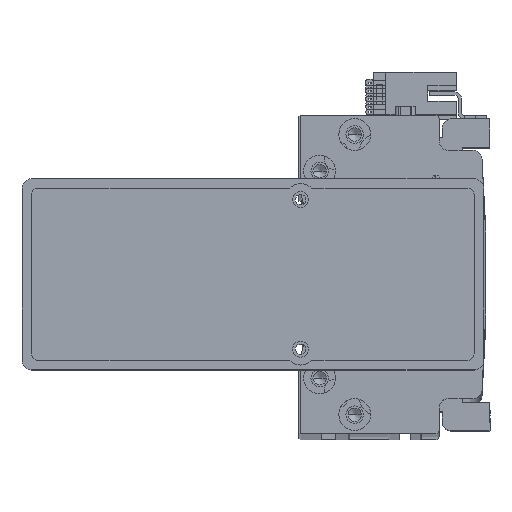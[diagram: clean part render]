
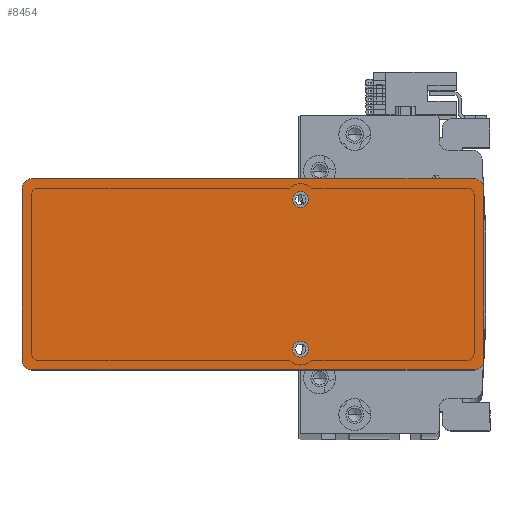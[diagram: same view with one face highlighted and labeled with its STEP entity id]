
A CAD part, top view. The second image highlights one B-rep face of the part: STEP entity #8454.
In plain terms, the highlighted planar face has unit normal (0, 0, 1) as drawn and (0, 0, -1) by its records, which use the part's own axes.
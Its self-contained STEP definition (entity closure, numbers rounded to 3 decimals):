
#537 = EDGE_CURVE ( 'NONE', #2843, #3777, #35075, .T. ) ;
#907 = ORIENTED_EDGE ( 'NONE', *, *, #10985, .F. ) ;
#2435 = CARTESIAN_POINT ( 'NONE',  ( -69.5, 30., 0. ) ) ;
#2843 = VERTEX_POINT ( 'NONE', #11849 ) ;
#2960 = EDGE_CURVE ( 'NONE', #28429, #46510, #44057, .T. ) ;
#3495 = FACE_OUTER_BOUND ( 'NONE', #12181, .T. ) ;
#3602 = CARTESIAN_POINT ( 'NONE',  ( 15., -23.5, 0. ) ) ;
#3777 = VERTEX_POINT ( 'NONE', #13112 ) ;
#5923 = ORIENTED_EDGE ( 'NONE', *, *, #33143, .F. ) ;
#7412 = ORIENTED_EDGE ( 'NONE', *, *, #537, .T. ) ;
#7538 = ORIENTED_EDGE ( 'NONE', *, *, #12062, .F. ) ;
#7611 = DIRECTION ( 'NONE',  ( 0., 0., -1. ) ) ;
#7702 = DIRECTION ( 'NONE',  ( -1., 0., 0. ) ) ;
#8454 = ADVANCED_FACE ( 'NONE', ( #44950, #24904, #3495 ), #16510, .F. ) ;
#8601 = DIRECTION ( 'NONE',  ( 0., 0., -1. ) ) ;
#8671 = VERTEX_POINT ( 'NONE', #41053 ) ;
#9159 = AXIS2_PLACEMENT_3D ( 'NONE', #41753, #17690, #45736 ) ;
#10197 = CARTESIAN_POINT ( 'NONE',  ( 72.5, -27., 0. ) ) ;
#10474 = CARTESIAN_POINT ( 'NONE',  ( 17.5, -23.5, 0. ) ) ;
#10956 = VERTEX_POINT ( 'NONE', #20022 ) ;
#10985 = EDGE_CURVE ( 'NONE', #31752, #8671, #13536, .T. ) ;
#11831 = EDGE_CURVE ( 'NONE', #12941, #3777, #51545, .T. ) ;
#11849 = CARTESIAN_POINT ( 'NONE',  ( -69.5, -30., 0. ) ) ;
#12062 = EDGE_CURVE ( 'NONE', #46510, #28429, #42241, .T. ) ;
#12181 = EDGE_LOOP ( 'NONE', ( #907, #28347, #20294, #7412, #13403, #22433, #17883, #43111 ) ) ;
#12846 = AXIS2_PLACEMENT_3D ( 'NONE', #32607, #8601, #36631 ) ;
#12941 = VERTEX_POINT ( 'NONE', #20907 ) ;
#13112 = CARTESIAN_POINT ( 'NONE',  ( -72.5, -27., 0. ) ) ;
#13339 = DIRECTION ( 'NONE',  ( 0., 0., -1. ) ) ;
#13403 = ORIENTED_EDGE ( 'NONE', *, *, #11831, .F. ) ;
#13478 = DIRECTION ( 'NONE',  ( -1., 0., 0. ) ) ;
#13536 = LINE ( 'NONE', #48010, #44299 ) ;
#13588 = VECTOR ( 'NONE', #41514, 1000. ) ;
#13924 = CIRCLE ( 'NONE', #37928, 3. ) ;
#14053 = EDGE_CURVE ( 'NONE', #12941, #42891, #22024, .T. ) ;
#14544 = EDGE_LOOP ( 'NONE', ( #31233, #5923 ) ) ;
#16510 = PLANE ( 'NONE',  #40551 ) ;
#17474 = CARTESIAN_POINT ( 'NONE',  ( 72.5, -30., 0. ) ) ;
#17690 = DIRECTION ( 'NONE',  ( 0., 0., -1. ) ) ;
#17883 = ORIENTED_EDGE ( 'NONE', *, *, #28010, .F. ) ;
#18153 = VERTEX_POINT ( 'NONE', #10474 ) ;
#20022 = CARTESIAN_POINT ( 'NONE',  ( 69.5, 30., 0. ) ) ;
#20026 = CARTESIAN_POINT ( 'NONE',  ( 69.5, -27., 0. ) ) ;
#20251 = EDGE_CURVE ( 'NONE', #26228, #18153, #28663, .T. ) ;
#20294 = ORIENTED_EDGE ( 'NONE', *, *, #44262, .F. ) ;
#20759 = CARTESIAN_POINT ( 'NONE',  ( 0., 0., 0. ) ) ;
#20907 = CARTESIAN_POINT ( 'NONE',  ( -72.5, 27., 0. ) ) ;
#21960 = CARTESIAN_POINT ( 'NONE',  ( -69.5, 27., 0. ) ) ;
#22024 = CIRCLE ( 'NONE', #44887, 3. ) ;
#22392 = ORIENTED_EDGE ( 'NONE', *, *, #2960, .F. ) ;
#22433 = ORIENTED_EDGE ( 'NONE', *, *, #14053, .T. ) ;
#23707 = CIRCLE ( 'NONE', #28370, 3. ) ;
#24077 = DIRECTION ( 'NONE',  ( 1., 0., 0. ) ) ;
#24794 = DIRECTION ( 'NONE',  ( 1., 0., 0. ) ) ;
#24904 = FACE_BOUND ( 'NONE', #14544, .T. ) ;
#24925 = EDGE_CURVE ( 'NONE', #10956, #8671, #13924, .T. ) ;
#25792 = CARTESIAN_POINT ( 'NONE',  ( 72.5, 30., 0. ) ) ;
#25980 = DIRECTION ( 'NONE',  ( 1., 0., 0. ) ) ;
#26228 = VERTEX_POINT ( 'NONE', #38873 ) ;
#26365 = CARTESIAN_POINT ( 'NONE',  ( 12.5, 23.5, 0. ) ) ;
#27258 = EDGE_LOOP ( 'NONE', ( #7538, #22392 ) ) ;
#28010 = EDGE_CURVE ( 'NONE', #10956, #42891, #31346, .T. ) ;
#28347 = ORIENTED_EDGE ( 'NONE', *, *, #33752, .T. ) ;
#28370 = AXIS2_PLACEMENT_3D ( 'NONE', #20026, #48013, #24077 ) ;
#28429 = VERTEX_POINT ( 'NONE', #32936 ) ;
#28663 = CIRCLE ( 'NONE', #30823, 2.5 ) ;
#28678 = AXIS2_PLACEMENT_3D ( 'NONE', #31638, #7611, #35652 ) ;
#29294 = DIRECTION ( 'NONE',  ( 1., 0., 0. ) ) ;
#29342 = DIRECTION ( 'NONE',  ( 0., 0., -1. ) ) ;
#29515 = CARTESIAN_POINT ( 'NONE',  ( -69.5, -27., 0. ) ) ;
#30103 = VECTOR ( 'NONE', #13478, 1000. ) ;
#30345 = VECTOR ( 'NONE', #46289, 1000. ) ;
#30823 = AXIS2_PLACEMENT_3D ( 'NONE', #3602, #31722, #7702 ) ;
#31233 = ORIENTED_EDGE ( 'NONE', *, *, #20251, .F. ) ;
#31346 = LINE ( 'NONE', #25792, #30103 ) ;
#31638 = CARTESIAN_POINT ( 'NONE',  ( 15., -23.5, 0. ) ) ;
#31722 = DIRECTION ( 'NONE',  ( 0., 0., -1. ) ) ;
#31752 = VERTEX_POINT ( 'NONE', #10197 ) ;
#32607 = CARTESIAN_POINT ( 'NONE',  ( 15., 23.5, 0. ) ) ;
#32936 = CARTESIAN_POINT ( 'NONE',  ( 17.5, 23.5, 0. ) ) ;
#33143 = EDGE_CURVE ( 'NONE', #18153, #26228, #45046, .T. ) ;
#33752 = EDGE_CURVE ( 'NONE', #31752, #35655, #23707, .T. ) ;
#34932 = LINE ( 'NONE', #17474, #13588 ) ;
#35075 = CIRCLE ( 'NONE', #37594, 3. ) ;
#35652 = DIRECTION ( 'NONE',  ( -1., 0., 0. ) ) ;
#35655 = VERTEX_POINT ( 'NONE', #46647 ) ;
#35949 = DIRECTION ( 'NONE',  ( 0., 1., 0. ) ) ;
#36631 = DIRECTION ( 'NONE',  ( -1., 0., 0. ) ) ;
#37404 = CARTESIAN_POINT ( 'NONE',  ( 69.5, 27., 0. ) ) ;
#37594 = AXIS2_PLACEMENT_3D ( 'NONE', #29515, #29342, #29294 ) ;
#37928 = AXIS2_PLACEMENT_3D ( 'NONE', #37404, #13339, #41466 ) ;
#38873 = CARTESIAN_POINT ( 'NONE',  ( 12.5, -23.5, 0. ) ) ;
#40551 = AXIS2_PLACEMENT_3D ( 'NONE', #20759, #48760, #24794 ) ;
#41053 = CARTESIAN_POINT ( 'NONE',  ( 72.5, 27., 0. ) ) ;
#41466 = DIRECTION ( 'NONE',  ( 1., 0., 0. ) ) ;
#41514 = DIRECTION ( 'NONE',  ( 1., 0., 0. ) ) ;
#41753 = CARTESIAN_POINT ( 'NONE',  ( 15., 23.5, 0. ) ) ;
#42241 = CIRCLE ( 'NONE', #12846, 2.5 ) ;
#42891 = VERTEX_POINT ( 'NONE', #2435 ) ;
#43111 = ORIENTED_EDGE ( 'NONE', *, *, #24925, .T. ) ;
#44057 = CIRCLE ( 'NONE', #9159, 2.5 ) ;
#44262 = EDGE_CURVE ( 'NONE', #2843, #35655, #34932, .T. ) ;
#44299 = VECTOR ( 'NONE', #35949, 1000. ) ;
#44887 = AXIS2_PLACEMENT_3D ( 'NONE', #21960, #49919, #25980 ) ;
#44950 = FACE_BOUND ( 'NONE', #27258, .T. ) ;
#45046 = CIRCLE ( 'NONE', #28678, 2.5 ) ;
#45736 = DIRECTION ( 'NONE',  ( -1., 0., 0. ) ) ;
#46289 = DIRECTION ( 'NONE',  ( 0., -1., 0. ) ) ;
#46510 = VERTEX_POINT ( 'NONE', #26365 ) ;
#46647 = CARTESIAN_POINT ( 'NONE',  ( 69.5, -30., 0. ) ) ;
#48010 = CARTESIAN_POINT ( 'NONE',  ( 72.5, -30., 0. ) ) ;
#48013 = DIRECTION ( 'NONE',  ( 0., 0., -1. ) ) ;
#48760 = DIRECTION ( 'NONE',  ( 0., 0., 1. ) ) ;
#49919 = DIRECTION ( 'NONE',  ( 0., 0., -1. ) ) ;
#50267 = CARTESIAN_POINT ( 'NONE',  ( -72.5, -30., 0. ) ) ;
#51545 = LINE ( 'NONE', #50267, #30345 ) ;
